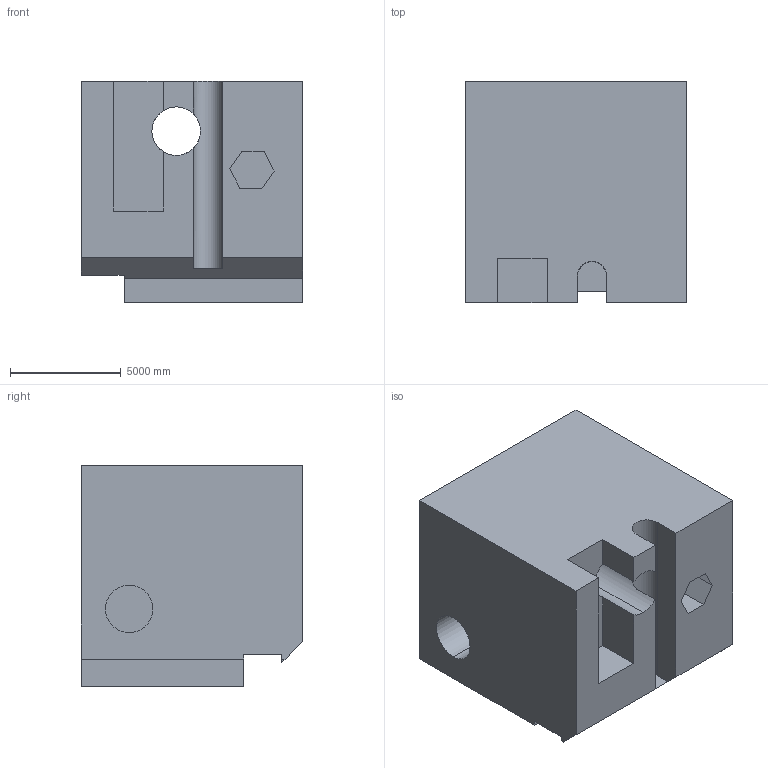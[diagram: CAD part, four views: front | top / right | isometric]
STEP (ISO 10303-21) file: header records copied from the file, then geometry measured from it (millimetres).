
FILE_DESCRIPTION (( 'STEP AP203' ), '1' );
FILE_NAME ('897.STEP', '2022-07-29T14:05:59', ( 'user' ), ( '' ), 'SwSTEP 2.0', 'SolidWorks 2021', '' );
FILE_SCHEMA (( 'CONFIG_CONTROL_DESIGN' ));
Length unit declared in the file: centimetre
Products named in the file (1): 897
Bounding box: 10000 x 10000 x 10000 mm (x, y, z)
Volume: 825633355321.4 mm3; surface area: 763336282.5 mm2
Topology: 1 solids, 1 shells, 42 faces, 114 edges, 76 vertices
Faces by surface type: plane 37, cylinder 5
Entity records: 1525 total; most frequent: CARTESIAN_POINT 368, ORIENTED_EDGE 228, DIRECTION 212, EDGE_CURVE 114, VECTOR 100, LINE 100, VERTEX_POINT 76, AXIS2_PLACEMENT_3D 56
